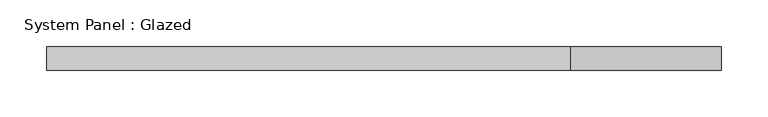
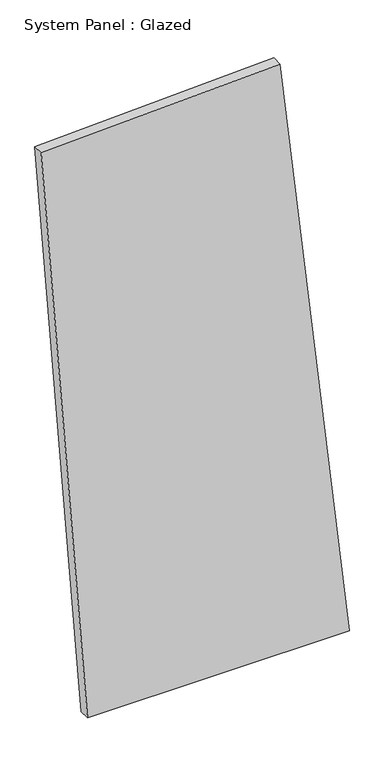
"""IFC4 building model written with IfcOpenShell, lengths in millimetres: plate geometry, System Panel : Glazed."""

import ifcopenshell
import ifcopenshell.guid

model = None  # the IFC model being written
_history = None  # IfcOwnerHistory: only IFC2X3 demands one
_inside = {}  # id of a spatial element -> (the spatial element, [elements in it])
_under = {}  # id of a project, library or spatial element -> (it, [spatial elements below it])
_declared = {}  # id of a project -> (the project, [libraries it declares])
_typed = {}  # id of a type object -> (the type object, [elements of that type])
_made_of = {}  # id of a material, layer set ... -> (it, [elements and type objects made of it])


def new_model(schema):
    """Start an empty IFC model of exactly this schema.

    Asked for "IFC4X3", IfcOpenShell would pick the latest addendum, in which some entities
    have other attributes; the version numbers below select the first issue.
    IFC2X3 requires an IfcOwnerHistory on every rooted entity: one is made here for all.
    """
    global model, _history
    if schema == "IFC4X3":
        model = ifcopenshell.file(schema_version=(4, 3, 0, 0))
    else:
        model = ifcopenshell.file(schema=schema)
    _inside.clear()
    _under.clear()
    _declared.clear()
    _typed.clear()
    _made_of.clear()
    _history = None
    if model.schema == "IFC2X3":
        org = make("IfcOrganization", Name="unknown")
        user = make(
            "IfcPersonAndOrganization",
            ThePerson=make("IfcPerson", FamilyName="unknown"),
            TheOrganization=org,
        )
        app = make(
            "IfcApplication",
            ApplicationDeveloper=org,
            Version="unknown",
            ApplicationFullName="unknown",
            ApplicationIdentifier="unknown",
        )
        _history = make(
            "IfcOwnerHistory",
            OwningUser=user,
            OwningApplication=app,
            ChangeAction="ADDED",
            CreationDate=0,
        )
    return model


def make(cls, **values):
    """One entity of the class cls with the attributes given. An attribute that is None is left unset."""
    return model.create_entity(
        cls, **{name: value for name, value in values.items() if value is not None}
    )


def rooted(cls, **values):
    """An entity with a GlobalId (a new one), such as an element, a storey or a relation."""
    return make(cls, GlobalId=ifcopenshell.guid.new(), OwnerHistory=_history, **values)


def si_unit(unit_type, name, prefix=None):
    """IfcSIUnit, for example si_unit("LENGTHUNIT", "METRE", prefix="MILLI")."""
    return make("IfcSIUnit", UnitType=unit_type, Prefix=prefix, Name=name)


def assignment(units):
    """IfcUnitAssignment: the units of a project."""
    return None if units is None else make("IfcUnitAssignment", Units=units)


def point(xyz):
    """IfcCartesianPoint."""
    return None if xyz is None else make("IfcCartesianPoint", Coordinates=xyz)


def direction(xyz):
    """IfcDirection."""
    return None if xyz is None else make("IfcDirection", DirectionRatios=xyz)


def frame(location, z_axis=None, x_axis=None):
    """IfcAxis2Placement3D, a coordinate frame: its origin and axes. An axis left out is left unset."""
    return make(
        "IfcAxis2Placement3D",
        Location=point(location),
        Axis=direction(z_axis),
        RefDirection=direction(x_axis),
    )


def origin():
    """The frame at (0, 0, 0) with its axes left unset."""
    return frame((0.0, 0.0, 0.0))


def place(relative_to, where):
    """IfcLocalPlacement: puts the frame where relative to a parent placement (None: the world)."""
    return make(
        "IfcLocalPlacement", PlacementRelTo=relative_to, RelativePlacement=where
    )


def context(
    kind, dimensions, precision=None, world=None, true_north=None, identifier=None
):
    """IfcGeometricRepresentationContext, for example the 3D "Model" context."""
    return make(
        "IfcGeometricRepresentationContext",
        ContextIdentifier=identifier,
        ContextType=kind,
        CoordinateSpaceDimension=dimensions,
        Precision=precision,
        WorldCoordinateSystem=world,
        TrueNorth=true_north,
    )


def project(units=None, contexts=None):
    """IfcProject with its units and contexts."""
    return rooted(
        "IfcProject",
        Name="project",
        RepresentationContexts=contexts,
        UnitsInContext=assignment(units),
    )


def spatial(cls, under=None, at=None, **own):
    """A site, building, storey or space (cls), placed at a placement, below another one or the project."""
    s = rooted(cls, ObjectPlacement=at, **own)
    if under is not None:
        _under.setdefault(under.id(), (under, []))[1].append(s)
    return s


def polyline(points):
    """IfcPolyline through the points."""
    return make("IfcPolyline", Points=[point(p) for p in points])


def outline(outer, holes=None, kind="AREA"):
    """IfcArbitraryClosedProfileDef: a profile drawn as a closed curve; with holes, ...WithVoids."""
    if holes is None:
        return make("IfcArbitraryClosedProfileDef", ProfileType=kind, OuterCurve=outer)
    return make(
        "IfcArbitraryProfileDefWithVoids",
        ProfileType=kind,
        OuterCurve=outer,
        InnerCurves=holes,
    )


def extrude(swept, where, along, depth):
    """IfcExtrudedAreaSolid: the profile swept, set in the frame where, extruded along a direction by depth."""
    return make(
        "IfcExtrudedAreaSolid",
        SweptArea=swept,
        Position=where,
        ExtrudedDirection=direction(along),
        Depth=depth,
    )


def shape(context_of_items, identifier, shape_type, items):
    """IfcShapeRepresentation: the items that make up one representation, for example the "Body"."""
    return make(
        "IfcShapeRepresentation",
        ContextOfItems=context_of_items,
        RepresentationIdentifier=identifier,
        RepresentationType=shape_type,
        Items=items,
    )


def source(mapping_origin, context_of_items, identifier, shape_type, items):
    """IfcRepresentationMap: a shape defined once, which mapped items show again and again."""
    return make(
        "IfcRepresentationMap",
        MappingOrigin=mapping_origin,
        MappedRepresentation=shape(context_of_items, identifier, shape_type, items),
    )


def transform(
    local_origin,
    x_axis=None,
    y_axis=None,
    z_axis=None,
    scale=None,
    scale2=None,
    scale3=None,
    uniform=True,
):
    """IfcCartesianTransformationOperator3D, or its non-uniform kind. x_axis, y_axis, z_axis: its Axis1, 2, 3."""
    if uniform:
        return make(
            "IfcCartesianTransformationOperator3D",
            Axis1=direction(x_axis),
            Axis2=direction(y_axis),
            LocalOrigin=point(local_origin),
            Scale=scale,
            Axis3=direction(z_axis),
        )
    return make(
        "IfcCartesianTransformationOperator3DnonUniform",
        Axis1=direction(x_axis),
        Axis2=direction(y_axis),
        LocalOrigin=point(local_origin),
        Scale=scale,
        Axis3=direction(z_axis),
        Scale2=scale2,
        Scale3=scale3,
    )


def mapped(mapping_source, mapping_target):
    """IfcMappedItem: shows the shape of a source again, moved by a transform."""
    return make(
        "IfcMappedItem", MappingSource=mapping_source, MappingTarget=mapping_target
    )


def made_of(thing, what):
    """Note that an element or type object is made of a material, layer set ...; save() writes the relation."""
    if what is not None:
        _made_of.setdefault(what.id(), (what, []))[1].append(thing)
    return thing


def element(
    cls,
    number,
    at=None,
    inside=None,
    cuts=None,
    type_object=None,
    material=None,
    context=None,
    identifier="Body",
    shape_type=None,
    held_by="IfcProductDefinitionShape",
    body=None,
    shapes=None,
    **own,
):
    """One element of the class cls, such as IfcWall. Its Tag is "e" and its number.

    at: its placement. inside: the storey or other place that contains it. cuts: it is an
    opening in that element (IfcRelVoidsElement). A single representation is given by context,
    identifier, shape_type and body (its items); several are given by shapes. held_by: the class
    of the entity that holds the representations. save() writes the other relations.
    """
    e = rooted(cls, Tag="e%d" % number, ObjectPlacement=at, **own)
    if body is not None:
        shapes = [shape(context, identifier, shape_type, body)]
    if shapes is not None:
        e.Representation = make(held_by, Representations=shapes)
    if inside is not None:
        _inside.setdefault(inside.id(), (inside, []))[1].append(e)
    if cuts is not None:
        rooted(
            "IfcRelVoidsElement", RelatingBuildingElement=cuts, RelatedOpeningElement=e
        )
    if type_object is not None:
        _typed.setdefault(type_object.id(), (type_object, []))[1].append(e)
    return made_of(e, material)


def aggregate(whole, parts):
    """IfcRelAggregates: a whole, such as a stair, and the parts it consists of."""
    return rooted("IfcRelAggregates", RelatingObject=whole, RelatedObjects=parts)


def save(model, path):
    """Write the relations noted so far, then the file.

    IfcRelAggregates (storeys below a building ...), IfcRelContainedInSpatialStructure (elements
    in a storey), IfcRelDefinesByType, IfcRelAssociatesMaterial and IfcRelDeclares: one each for
    every whole, place, type object, material and project.
    """
    for whole, parts in _under.values():
        aggregate(whole, parts)
    for where, things in _inside.values():
        rooted(
            "IfcRelContainedInSpatialStructure",
            RelatedElements=things,
            RelatingStructure=where,
        )
    for kind, things in _typed.values():
        rooted("IfcRelDefinesByType", RelatedObjects=things, RelatingType=kind)
    for what, things in _made_of.values():
        rooted("IfcRelAssociatesMaterial", RelatedObjects=things, RelatingMaterial=what)
    for by, libraries in _declared.values():
        rooted("IfcRelDeclares", RelatingContext=by, RelatedDefinitions=libraries)
    model.write(path)


def system_panel_glazed_3e823922(model_context):
    return source(origin(), model_context, "Body", "SweptSolid", [
        extrude(outline(polyline([(0.0, -253.4943178), (0.0, 362.5075449), (1466.063492, 199.904199), (1442.2029559, -362.5075449), (0.0, -253.4943178)])), frame((0.0, -44.45, 0.0), z_axis=(0.0, 1.0, 0.0), x_axis=(0.0, 0.0, 1.0)), (0.0, 0.0, 1.0), 25.4),
    ])


if __name__ == "__main__":
    model = new_model("IFC4")
    model_context = context("Model", 3, world=origin())
    ifc_project = project(units=[si_unit("LENGTHUNIT", "METRE", prefix="MILLI")], contexts=[model_context])
    site = spatial("IfcSite", under=ifc_project)
    building = spatial("IfcBuilding", under=site)
    placement = place(None, origin())
    system_panel_glazed_shape = system_panel_glazed_3e823922(model_context)
    element("IfcPlate", 1, ObjectType="System Panel : Glazed", at=placement, inside=building, context=model_context, shape_type="MappedRepresentation", body=[
        mapped(system_panel_glazed_shape, transform((0.0, 0.0, 0.0), x_axis=(1.0, 0.0, 0.0), y_axis=(0.0, 1.0, 0.0), z_axis=(0.0, 0.0, 1.0))),
    ])
    save(model, "model.ifc")
